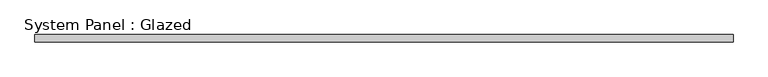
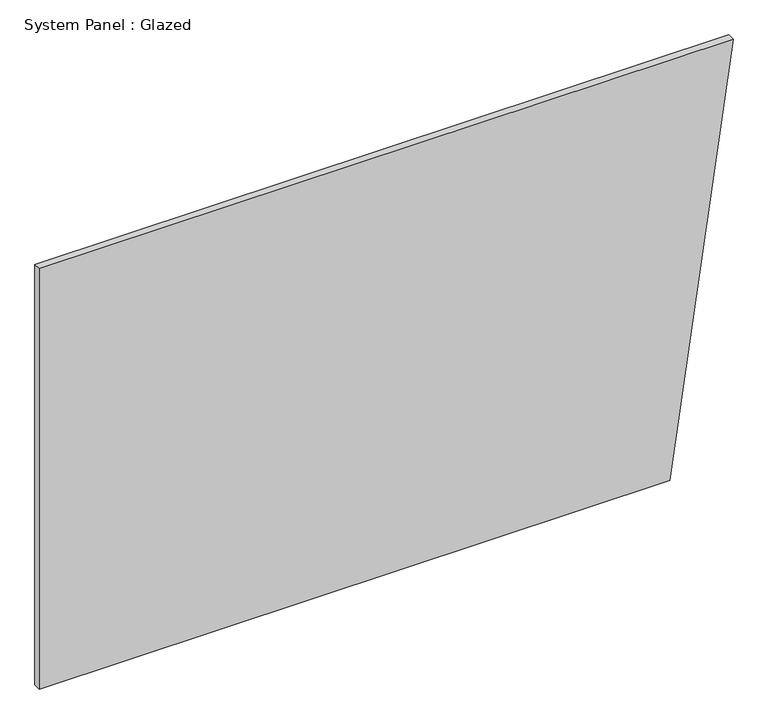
"""IFC4 building model written with IfcOpenShell, lengths in millimetres: plate geometry, System Panel : Glazed."""

from ifc_helpers import new_model, si_unit, frame, origin, place, context, project, spatial, polyline, outline, extrude, source, transform, mapped, element, save


def system_panel_glazed_a518d741(model_context):
    return source(origin(), model_context, "Body", "SweptSolid", [
        extrude(outline(polyline([(0.0, -1189.0669386), (0.0, 972.0215835), (1524.0, 1189.0669386), (1524.0, -1189.0669386), (0.0, -1189.0669386)])), frame((0.0, 19.05, 0.0), z_axis=(0.0, 1.0, 0.0), x_axis=(0.0, 0.0, 1.0)), (0.0, 0.0, 1.0), 25.4),
    ])


if __name__ == "__main__":
    model = new_model("IFC4")
    model_context = context("Model", 3, world=origin())
    ifc_project = project(units=[si_unit("LENGTHUNIT", "METRE", prefix="MILLI")], contexts=[model_context])
    site = spatial("IfcSite", under=ifc_project)
    building = spatial("IfcBuilding", under=site)
    placement = place(None, origin())
    system_panel_glazed_shape = system_panel_glazed_a518d741(model_context)
    element("IfcPlate", 1, ObjectType="System Panel : Glazed", at=placement, inside=building, context=model_context, shape_type="MappedRepresentation", body=[
        mapped(system_panel_glazed_shape, transform((0.0, 0.0, 0.0), x_axis=(1.0, 0.0, 0.0), y_axis=(0.0, 1.0, 0.0), z_axis=(0.0, 0.0, 1.0))),
    ])
    save(model, "model.ifc")
